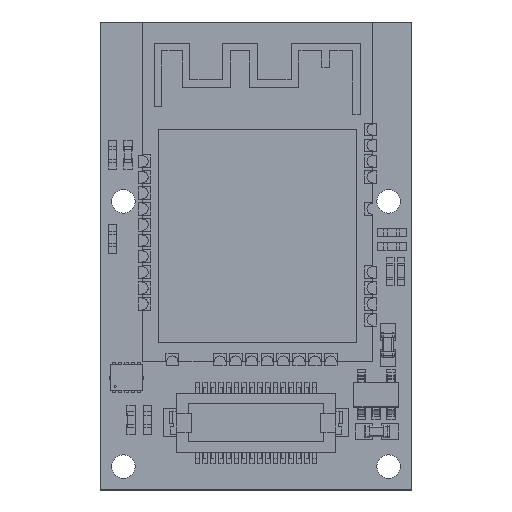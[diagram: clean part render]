
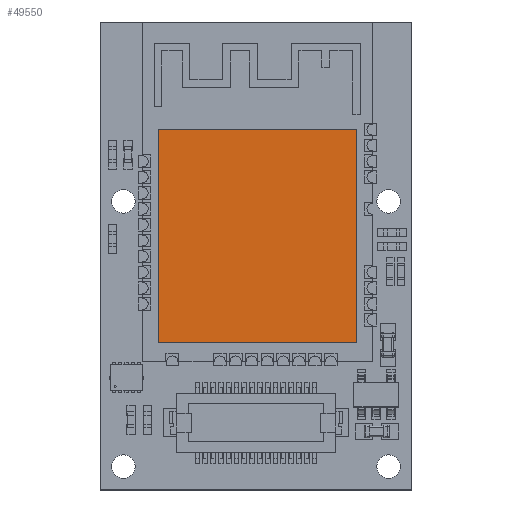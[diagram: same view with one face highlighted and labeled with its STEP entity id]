
A CAD part, top view. The second image highlights one B-rep face of the part: STEP entity #49550.
In plain terms, the highlighted planar face has unit normal (0, 0, 1).
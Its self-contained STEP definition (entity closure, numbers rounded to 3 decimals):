
#49177 = VERTEX_POINT('',#49178);
#49178 = CARTESIAN_POINT('',(26.45,33.102,2.713));
#49185 = PLANE('',#49186);
#49186 = AXIS2_PLACEMENT_3D('',#49187,#49188,#49189);
#49187 = CARTESIAN_POINT('',(26.45,33.102,1.413));
#49188 = DIRECTION('',(1.,0.,0.));
#49189 = DIRECTION('',(0.,-1.,0.));
#49197 = PLANE('',#49198);
#49198 = AXIS2_PLACEMENT_3D('',#49199,#49200,#49201);
#49199 = CARTESIAN_POINT('',(13.75,33.102,1.413));
#49200 = DIRECTION('',(0.,1.,0.));
#49201 = DIRECTION('',(1.,0.,0.));
#49209 = EDGE_CURVE('',#49177,#49210,#49212,.T.);
#49210 = VERTEX_POINT('',#49211);
#49211 = CARTESIAN_POINT('',(26.45,19.442,2.713));
#49212 = SURFACE_CURVE('',#49213,(#49217,#49224),.PCURVE_S1.);
#49213 = LINE('',#49214,#49215);
#49214 = CARTESIAN_POINT('',(26.45,33.102,2.713));
#49215 = VECTOR('',#49216,1.);
#49216 = DIRECTION('',(0.,-1.,0.));
#49217 = PCURVE('',#49185,#49218);
#49218 = DEFINITIONAL_REPRESENTATION('',(#49219),#49223);
#49219 = LINE('',#49220,#49221);
#49220 = CARTESIAN_POINT('',(0.,-1.3));
#49221 = VECTOR('',#49222,1.);
#49222 = DIRECTION('',(1.,0.));
#49223 = ( GEOMETRIC_REPRESENTATION_CONTEXT(2) 
PARAMETRIC_REPRESENTATION_CONTEXT() REPRESENTATION_CONTEXT('2D SPACE',''
  ) );
#49224 = PCURVE('',#49225,#49230);
#49225 = PLANE('',#49226);
#49226 = AXIS2_PLACEMENT_3D('',#49227,#49228,#49229);
#49227 = CARTESIAN_POINT('',(20.1,29.1,2.713));
#49228 = DIRECTION('',(0.,0.,1.));
#49229 = DIRECTION('',(0.,-1.,0.));
#49230 = DEFINITIONAL_REPRESENTATION('',(#49231),#49235);
#49231 = LINE('',#49232,#49233);
#49232 = CARTESIAN_POINT('',(-4.002,6.35));
#49233 = VECTOR('',#49234,1.);
#49234 = DIRECTION('',(1.,0.));
#49235 = ( GEOMETRIC_REPRESENTATION_CONTEXT(2) 
PARAMETRIC_REPRESENTATION_CONTEXT() REPRESENTATION_CONTEXT('2D SPACE',''
  ) );
#49253 = PLANE('',#49254);
#49254 = AXIS2_PLACEMENT_3D('',#49255,#49256,#49257);
#49255 = CARTESIAN_POINT('',(26.45,19.442,1.413));
#49256 = DIRECTION('',(0.,-1.,0.));
#49257 = DIRECTION('',(-1.,0.,0.));
#49458 = VERTEX_POINT('',#49459);
#49459 = CARTESIAN_POINT('',(13.75,33.102,2.713));
#49473 = PLANE('',#49474);
#49474 = AXIS2_PLACEMENT_3D('',#49475,#49476,#49477);
#49475 = CARTESIAN_POINT('',(13.75,19.442,1.413));
#49476 = DIRECTION('',(-1.,0.,0.));
#49477 = DIRECTION('',(0.,1.,0.));
#49485 = EDGE_CURVE('',#49177,#49458,#49486,.T.);
#49486 = SURFACE_CURVE('',#49487,(#49491,#49498),.PCURVE_S1.);
#49487 = LINE('',#49488,#49489);
#49488 = CARTESIAN_POINT('',(26.45,33.102,2.713));
#49489 = VECTOR('',#49490,1.);
#49490 = DIRECTION('',(-1.,0.,0.));
#49491 = PCURVE('',#49197,#49492);
#49492 = DEFINITIONAL_REPRESENTATION('',(#49493),#49497);
#49493 = LINE('',#49494,#49495);
#49494 = CARTESIAN_POINT('',(12.7,-1.3));
#49495 = VECTOR('',#49496,1.);
#49496 = DIRECTION('',(-1.,-0.));
#49497 = ( GEOMETRIC_REPRESENTATION_CONTEXT(2) 
PARAMETRIC_REPRESENTATION_CONTEXT() REPRESENTATION_CONTEXT('2D SPACE',''
  ) );
#49498 = PCURVE('',#49225,#49499);
#49499 = DEFINITIONAL_REPRESENTATION('',(#49500),#49504);
#49500 = LINE('',#49501,#49502);
#49501 = CARTESIAN_POINT('',(-4.002,6.35));
#49502 = VECTOR('',#49503,1.);
#49503 = DIRECTION('',(0.,-1.));
#49504 = ( GEOMETRIC_REPRESENTATION_CONTEXT(2) 
PARAMETRIC_REPRESENTATION_CONTEXT() REPRESENTATION_CONTEXT('2D SPACE',''
  ) );
#49550 = ADVANCED_FACE('',(#49551),#49225,.T.);
#49551 = FACE_BOUND('',#49552,.T.);
#49552 = EDGE_LOOP('',(#49553,#49554,#49577,#49598));
#49553 = ORIENTED_EDGE('',*,*,#49485,.T.);
#49554 = ORIENTED_EDGE('',*,*,#49555,.T.);
#49555 = EDGE_CURVE('',#49458,#49556,#49558,.T.);
#49556 = VERTEX_POINT('',#49557);
#49557 = CARTESIAN_POINT('',(13.75,19.442,2.713));
#49558 = SURFACE_CURVE('',#49559,(#49563,#49570),.PCURVE_S1.);
#49559 = LINE('',#49560,#49561);
#49560 = CARTESIAN_POINT('',(13.75,33.102,2.713));
#49561 = VECTOR('',#49562,1.);
#49562 = DIRECTION('',(0.,-1.,0.));
#49563 = PCURVE('',#49225,#49564);
#49564 = DEFINITIONAL_REPRESENTATION('',(#49565),#49569);
#49565 = LINE('',#49566,#49567);
#49566 = CARTESIAN_POINT('',(-4.002,-6.35));
#49567 = VECTOR('',#49568,1.);
#49568 = DIRECTION('',(1.,0.));
#49569 = ( GEOMETRIC_REPRESENTATION_CONTEXT(2) 
PARAMETRIC_REPRESENTATION_CONTEXT() REPRESENTATION_CONTEXT('2D SPACE',''
  ) );
#49570 = PCURVE('',#49473,#49571);
#49571 = DEFINITIONAL_REPRESENTATION('',(#49572),#49576);
#49572 = LINE('',#49573,#49574);
#49573 = CARTESIAN_POINT('',(13.66,-1.3));
#49574 = VECTOR('',#49575,1.);
#49575 = DIRECTION('',(-1.,0.));
#49576 = ( GEOMETRIC_REPRESENTATION_CONTEXT(2) 
PARAMETRIC_REPRESENTATION_CONTEXT() REPRESENTATION_CONTEXT('2D SPACE',''
  ) );
#49577 = ORIENTED_EDGE('',*,*,#49578,.T.);
#49578 = EDGE_CURVE('',#49556,#49210,#49579,.T.);
#49579 = SURFACE_CURVE('',#49580,(#49584,#49591),.PCURVE_S1.);
#49580 = LINE('',#49581,#49582);
#49581 = CARTESIAN_POINT('',(13.75,19.442,2.713));
#49582 = VECTOR('',#49583,1.);
#49583 = DIRECTION('',(1.,0.,0.));
#49584 = PCURVE('',#49225,#49585);
#49585 = DEFINITIONAL_REPRESENTATION('',(#49586),#49590);
#49586 = LINE('',#49587,#49588);
#49587 = CARTESIAN_POINT('',(9.658,-6.35));
#49588 = VECTOR('',#49589,1.);
#49589 = DIRECTION('',(0.,1.));
#49590 = ( GEOMETRIC_REPRESENTATION_CONTEXT(2) 
PARAMETRIC_REPRESENTATION_CONTEXT() REPRESENTATION_CONTEXT('2D SPACE',''
  ) );
#49591 = PCURVE('',#49253,#49592);
#49592 = DEFINITIONAL_REPRESENTATION('',(#49593),#49597);
#49593 = LINE('',#49594,#49595);
#49594 = CARTESIAN_POINT('',(12.7,-1.3));
#49595 = VECTOR('',#49596,1.);
#49596 = DIRECTION('',(-1.,-0.));
#49597 = ( GEOMETRIC_REPRESENTATION_CONTEXT(2) 
PARAMETRIC_REPRESENTATION_CONTEXT() REPRESENTATION_CONTEXT('2D SPACE',''
  ) );
#49598 = ORIENTED_EDGE('',*,*,#49209,.F.);
